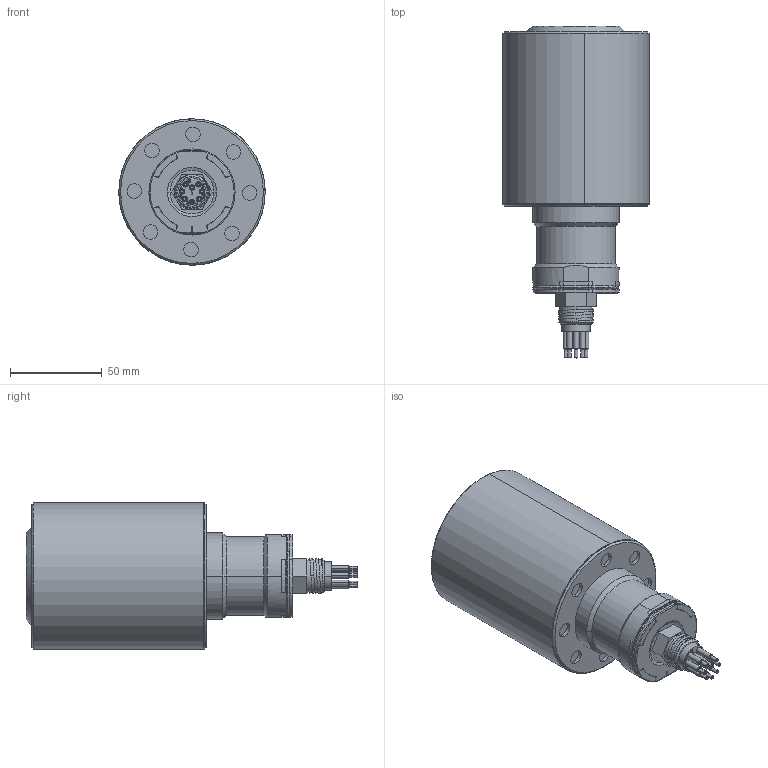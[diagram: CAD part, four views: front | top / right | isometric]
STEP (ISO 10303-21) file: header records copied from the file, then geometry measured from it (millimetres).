
FILE_DESCRIPTION (( 'STEP AP214' ), '1' );
FILE_NAME ('ISP360 n.STEP', '2023-03-14T21:18:37', ( '' ), ( '' ), 'SwSTEP 2.0', 'SolidWorks 2017', '' );
FILE_SCHEMA (( 'AUTOMOTIVE_DESIGN' ));
Length unit declared in the file: millimetre
Products named in the file (1): ISP360 n
Bounding box: 79.99 x 181.3 x 79.99 mm (x, y, z)
Surface area: 50735.4 mm2 (no closed solid volume)
Topology: 0 solids, 12 shells, 356 faces, 1179 edges, 842 vertices
Faces by surface type: cylinder 171, plane 93, cone 47, torus 26, bspline 19
Entity records: 19245 total; most frequent: CARTESIAN_POINT 5374, DIRECTION 2051, ORIENTED_EDGE 1928, EDGE_CURVE 1179, VERTEX_POINT 842, AXIS2_PLACEMENT_3D 788, LINE 475, VECTOR 475
